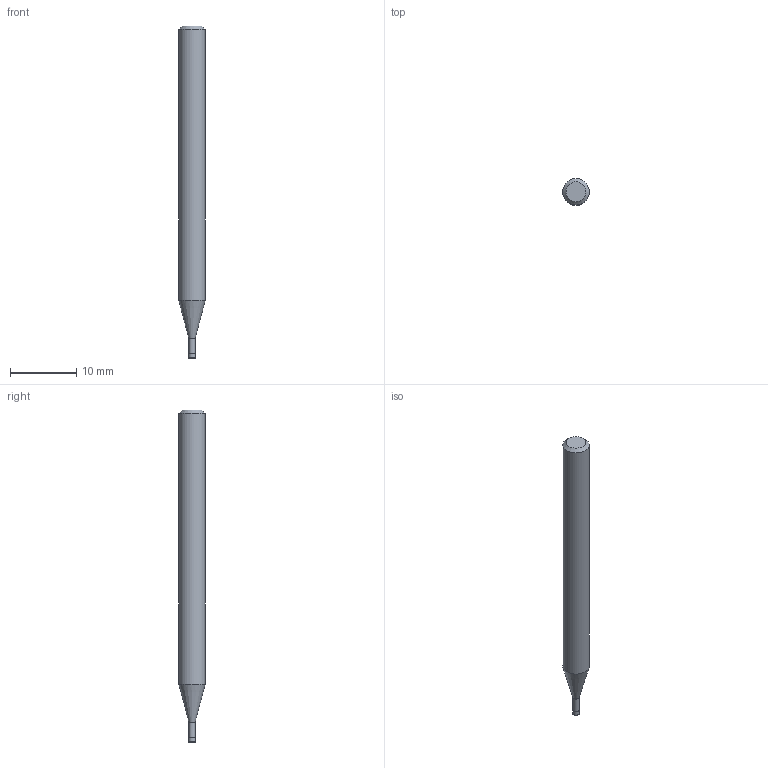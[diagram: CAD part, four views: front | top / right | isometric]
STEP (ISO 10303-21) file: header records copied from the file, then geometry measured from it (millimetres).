
FILE_DESCRIPTION((''),'2;1');
FILE_NAME('C:\Users\nsx150\AppData\Local\Temp\Mastercam 2021\LJSIDMOTM8\TEMP.step','2021-08-03T13:49:56',(''),(''),'STEP Write','Mastercam 2021 ... CNC Software, Inc.','');
FILE_SCHEMA(('AUTOMOTIVE_DESIGN'));
Length unit declared in the file: millimetre
Products named in the file (1): None
Bounding box: 4 x 4 x 50 mm (x, y, z)
Volume: 550.7 mm3; surface area: 584.8 mm2
Topology: 2 solids, 2 shells, 10 faces, 14 edges, 8 vertices
Faces by surface type: plane 4, cylinder 3, cone 2, torus 1
Full cylindrical faces by diameter (mm): 0.95 x1, 1 x1, 4 x1
Entity records: 232 total; most frequent: DIRECTION 40, CARTESIAN_POINT 28, AXIS2_PLACEMENT_3D 20, ORIENTED_EDGE 16, EDGE_LOOP 16, STYLED_ITEM 13, ADVANCED_FACE 10, FACE_BOUND 10
